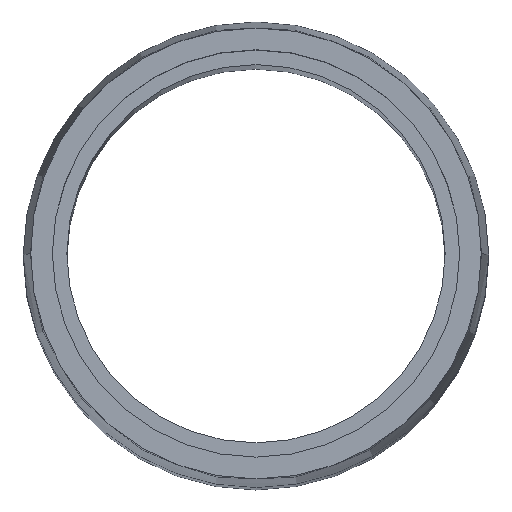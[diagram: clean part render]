
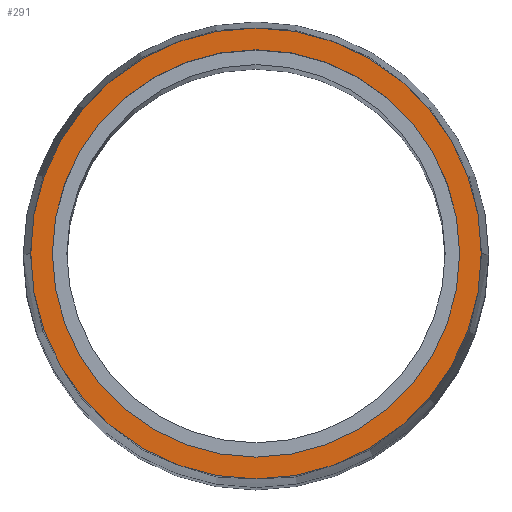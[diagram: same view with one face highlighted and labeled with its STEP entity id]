
A CAD part, top view. The second image highlights one B-rep face of the part: STEP entity #291.
In plain terms, the highlighted planar face has unit normal (0, 0, 1).
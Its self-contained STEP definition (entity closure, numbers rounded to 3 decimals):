
#25 = CARTESIAN_POINT ( 'NONE',  ( 0., 0., 100. ) ) ;
#34 = FACE_OUTER_BOUND ( 'NONE', #70, .T. ) ;
#39 = VERTEX_POINT ( 'NONE', #354 ) ;
#40 = CIRCLE ( 'NONE', #188, 15.5 ) ;
#47 = CIRCLE ( 'NONE', #172, 14. ) ;
#49 = EDGE_LOOP ( 'NONE', ( #103, #381 ) ) ;
#53 = DIRECTION ( 'NONE',  ( 1., 0., 0. ) ) ;
#57 = VERTEX_POINT ( 'NONE', #471 ) ;
#70 = EDGE_LOOP ( 'NONE', ( #258, #347 ) ) ;
#71 = AXIS2_PLACEMENT_3D ( 'NONE', #157, #227, #262 ) ;
#84 = EDGE_CURVE ( 'NONE', #176, #57, #142, .T. ) ;
#103 = ORIENTED_EDGE ( 'NONE', *, *, #250, .F. ) ;
#142 = CIRCLE ( 'NONE', #430, 14. ) ;
#153 = EDGE_CURVE ( 'NONE', #39, #257, #259, .T. ) ;
#157 = CARTESIAN_POINT ( 'NONE',  ( 0., 0., 100. ) ) ;
#167 = PLANE ( 'NONE',  #233 ) ;
#172 = AXIS2_PLACEMENT_3D ( 'NONE', #25, #270, #200 ) ;
#176 = VERTEX_POINT ( 'NONE', #417 ) ;
#188 = AXIS2_PLACEMENT_3D ( 'NONE', #393, #399, #209 ) ;
#194 = FACE_BOUND ( 'NONE', #49, .T. ) ;
#197 = CARTESIAN_POINT ( 'NONE',  ( 15.5, 0., 100. ) ) ;
#200 = DIRECTION ( 'NONE',  ( 1., 0., 0. ) ) ;
#209 = DIRECTION ( 'NONE',  ( 1., 0., 0. ) ) ;
#227 = DIRECTION ( 'NONE',  ( 0., 0., 1. ) ) ;
#233 = AXIS2_PLACEMENT_3D ( 'NONE', #428, #351, #461 ) ;
#250 = EDGE_CURVE ( 'NONE', #57, #176, #47, .T. ) ;
#257 = VERTEX_POINT ( 'NONE', #197 ) ;
#258 = ORIENTED_EDGE ( 'NONE', *, *, #153, .T. ) ;
#259 = CIRCLE ( 'NONE', #71, 15.5 ) ;
#261 = DIRECTION ( 'NONE',  ( 0., 0., 1. ) ) ;
#262 = DIRECTION ( 'NONE',  ( 1., 0., 0. ) ) ;
#270 = DIRECTION ( 'NONE',  ( 0., 0., 1. ) ) ;
#291 = ADVANCED_FACE ( 'NONE', ( #194, #34 ), #167, .T. ) ;
#343 = EDGE_CURVE ( 'NONE', #257, #39, #40, .T. ) ;
#347 = ORIENTED_EDGE ( 'NONE', *, *, #343, .T. ) ;
#351 = DIRECTION ( 'NONE',  ( 0., 0., 1. ) ) ;
#354 = CARTESIAN_POINT ( 'NONE',  ( -15.5, 0., 100. ) ) ;
#365 = CARTESIAN_POINT ( 'NONE',  ( 0., 0., 100. ) ) ;
#381 = ORIENTED_EDGE ( 'NONE', *, *, #84, .F. ) ;
#393 = CARTESIAN_POINT ( 'NONE',  ( 0., 0., 100. ) ) ;
#399 = DIRECTION ( 'NONE',  ( 0., 0., 1. ) ) ;
#417 = CARTESIAN_POINT ( 'NONE',  ( -14., 0., 100. ) ) ;
#428 = CARTESIAN_POINT ( 'NONE',  ( 0., 0., 100. ) ) ;
#430 = AXIS2_PLACEMENT_3D ( 'NONE', #365, #261, #53 ) ;
#461 = DIRECTION ( 'NONE',  ( 1., 0., 0. ) ) ;
#471 = CARTESIAN_POINT ( 'NONE',  ( 14., 0., 100. ) ) ;
